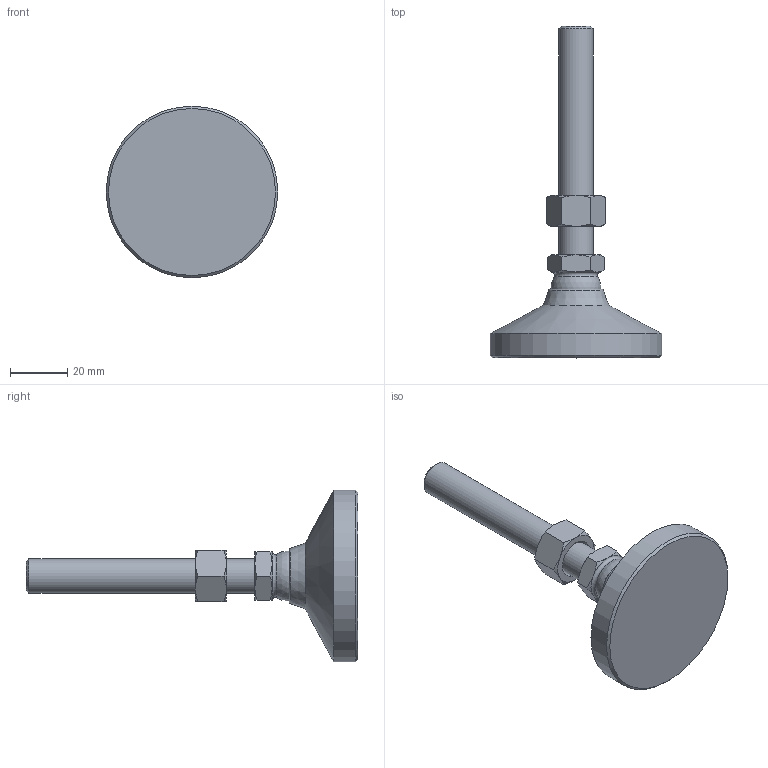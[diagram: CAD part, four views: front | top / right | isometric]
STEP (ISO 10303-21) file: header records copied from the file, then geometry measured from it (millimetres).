
FILE_DESCRIPTION( ( 'STEP AP214' ), ' ' );
FILE_NAME( 'O:/ganter_2015/teil_2/2_5/gn343_2/gn343_2_os/Levelling foot with threaded stud GN 343.2-60-M12-80-OS-(0).stp', '2015-10-26T09:08:17', ( '' ), ( '' ), ' ', 'PARTsolutions', ' ' );
FILE_SCHEMA( ( 'AUTOMOTIVE_DESIGN { 1 0 10303 214 1 1 1 1 }' ) );
Length unit declared in the file: millimetre
Products named in the file (4): Levelling foot with threaded stud GN 343.2-60-M12-80-OS-(0); _Levelling foot with threaded stud GN 343.2-60-M12-80-OS-(0)_foot; _Levelling foot with threaded stud GN 343.2-60-M12-80-OS-(0)_screw; _Stainless Steel-Levelling feet GN 343.2-60-M12-80-OS-(0)_nut
Assembly tree (3 placements, depth 2):
  Levelling foot with threaded stud GN 343.2-60-M12-80-OS-(0)
    _Levelling foot with threaded stud GN 343.2-60-M12-80-OS-(0)_foot
    _Levelling foot with threaded stud GN 343.2-60-M12-80-OS-(0)_screw
    _Stainless Steel-Levelling feet GN 343.2-60-M12-80-OS-(0)_nut
Bounding box: 60 x 116 x 60 mm (x, y, z)
Volume: 54089.5 mm3; surface area: 13736.9 mm2
Topology: 3 solids, 3 shells, 55 faces, 116 edges, 67 vertices
Faces by surface type: cone 30, plane 18, cylinder 3, torus 2, sphere 2
Full cylindrical faces by diameter (mm): 10.106 x1, 12 x1, 60 x1
Entity records: 2038 total; most frequent: CARTESIAN_POINT 495, DIRECTION 208, ORIENTED_EDGE 198, EDGE_CURVE 99, AXIS2_PLACEMENT_3D 98, EDGE_LOOP 70, VERTEX_POINT 65, FACE_OUTER_BOUND 60
